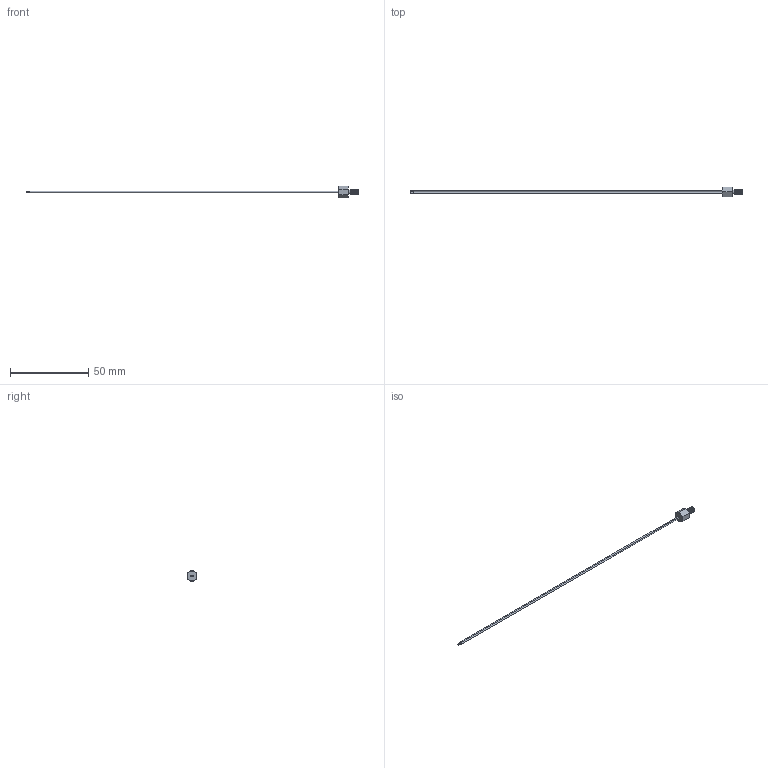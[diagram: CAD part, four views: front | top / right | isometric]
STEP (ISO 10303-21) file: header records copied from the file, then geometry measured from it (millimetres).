
FILE_DESCRIPTION (( 'STEP AP214' ), '1' );
FILE_NAME ('NTCASCWE3C70001A.STEP', '2026-09-07T13:21:57', ( '' ), ( '' ), 'SwSTEP 2.0', 'SolidWorks 2026', '' );
FILE_SCHEMA (( 'AUTOMOTIVE_DESIGN' ));
Length unit declared in the file: millimetre
Products named in the file (1): NTCASCWE3C70001A
Bounding box: 212.7 x 6.35 x 7.33 mm (x, y, z)
Volume: 517.1 mm3; surface area: 1428 mm2
Topology: 1 solids, 1 shells, 30 faces, 62 edges, 40 vertices
Faces by surface type: plane 14, cone 7, cylinder 6, bspline 3
Full cylindrical faces by diameter (mm): 0.35 x1, 0.4 x1, 0.9 x2, 2.286 x1
Entity records: 3010 total; most frequent: CARTESIAN_POINT 2424, ORIENTED_EDGE 110, DIRECTION 106, EDGE_CURVE 55, AXIS2_PLACEMENT_3D 47, EDGE_LOOP 41, VERTEX_POINT 38, FACE_OUTER_BOUND 35
